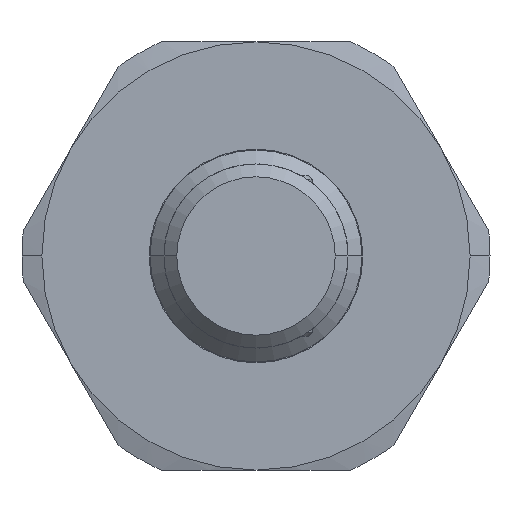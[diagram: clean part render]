
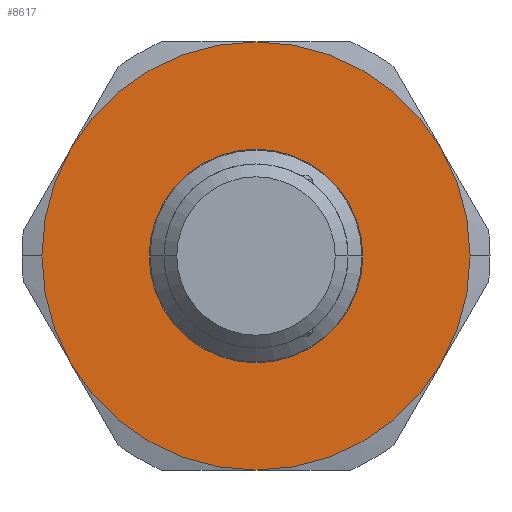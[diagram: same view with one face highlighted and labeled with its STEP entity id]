
A CAD part, left-side view. The second image highlights one B-rep face of the part: STEP entity #8617.
In plain terms, the highlighted planar face has unit normal (-1, 0, 0).
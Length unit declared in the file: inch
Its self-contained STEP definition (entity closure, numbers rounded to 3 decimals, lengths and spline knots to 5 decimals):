
#2835=CARTESIAN_POINT('',(-0.219,-0.5,0.));
#2836=VERTEX_POINT('',#2835);
#2843=CARTESIAN_POINT('',(-0.219,-0.43301,-0.25));
#2844=VERTEX_POINT('',#2843);
#2845=CARTESIAN_POINT('',(-0.219,0.0,0.0));
#2846=DIRECTION('',(-1.0,0.0,0.0));
#2847=DIRECTION('',(0.0,1.0,0.0));
#2848=AXIS2_PLACEMENT_3D('',#2845,#2846,#2847);
#2849=CIRCLE('',#2848,0.5);
#2850=EDGE_CURVE('',#2844,#2836,#2849,.T.);
#2882=CARTESIAN_POINT('',(-0.219,0.5,0.));
#2883=VERTEX_POINT('',#2882);
#2891=CARTESIAN_POINT('',(-0.219,0.43301,-0.25));
#2892=VERTEX_POINT('',#2891);
#2906=CARTESIAN_POINT('',(-0.219,0.0,0.0));
#2907=DIRECTION('',(-1.0,0.0,0.0));
#2908=DIRECTION('',(0.0,1.0,0.0));
#2909=AXIS2_PLACEMENT_3D('',#2906,#2907,#2908);
#2910=CIRCLE('',#2909,0.5);
#2911=EDGE_CURVE('',#2883,#2892,#2910,.T.);
#3325=CARTESIAN_POINT('',(-0.219,-0.2495,0.0));
#3326=VERTEX_POINT('',#3325);
#3335=CARTESIAN_POINT('',(-0.219,0.2495,0.));
#3336=VERTEX_POINT('',#3335);
#3337=CARTESIAN_POINT('',(-0.219,0.,0.0));
#3338=DIRECTION('',(1.0,0.0,0.0));
#3339=DIRECTION('',(0.0,-1.0,0.0));
#3340=AXIS2_PLACEMENT_3D('',#3337,#3338,#3339);
#3341=CIRCLE('',#3340,0.2495);
#3342=EDGE_CURVE('',#3336,#3326,#3341,.T.);
#8268=CARTESIAN_POINT('',(-0.219,0.,0.0));
#8269=DIRECTION('',(1.0,0.0,0.0));
#8270=DIRECTION('',(0.0,-1.0,0.0));
#8271=AXIS2_PLACEMENT_3D('',#8268,#8269,#8270);
#8272=CIRCLE('',#8271,0.2495);
#8273=EDGE_CURVE('',#3326,#3336,#8272,.T.);
#8554=CARTESIAN_POINT('',(-0.219,0.0,0.0));
#8555=DIRECTION('',(1.0,0.0,0.0));
#8556=DIRECTION('',(0.0,1.0,0.0));
#8557=AXIS2_PLACEMENT_3D('',#8554,#8555,#8556);
#8558=PLANE('',#8557);
#8559=CARTESIAN_POINT('',(-0.219,0.0,-0.5));
#8560=VERTEX_POINT('',#8559);
#8561=CARTESIAN_POINT('',(-0.219,0.0,0.0));
#8562=DIRECTION('',(-1.0,0.0,0.0));
#8563=DIRECTION('',(0.0,1.0,0.0));
#8564=AXIS2_PLACEMENT_3D('',#8561,#8562,#8563);
#8565=CIRCLE('',#8564,0.5);
#8566=EDGE_CURVE('',#2892,#8560,#8565,.T.);
#8567=ORIENTED_EDGE('',*,*,#8566,.T.);
#8568=CARTESIAN_POINT('',(-0.219,0.0,0.0));
#8569=DIRECTION('',(-1.0,0.0,0.0));
#8570=DIRECTION('',(0.0,1.0,0.0));
#8571=AXIS2_PLACEMENT_3D('',#8568,#8569,#8570);
#8572=CIRCLE('',#8571,0.5);
#8573=EDGE_CURVE('',#8560,#2844,#8572,.T.);
#8574=ORIENTED_EDGE('',*,*,#8573,.T.);
#8575=ORIENTED_EDGE('',*,*,#2850,.T.);
#8576=CARTESIAN_POINT('',(-0.219,-0.43301,0.25));
#8577=VERTEX_POINT('',#8576);
#8578=CARTESIAN_POINT('',(-0.219,0.0,0.0));
#8579=DIRECTION('',(-1.0,0.0,0.0));
#8580=DIRECTION('',(0.0,1.0,0.0));
#8581=AXIS2_PLACEMENT_3D('',#8578,#8579,#8580);
#8582=CIRCLE('',#8581,0.5);
#8583=EDGE_CURVE('',#2836,#8577,#8582,.T.);
#8584=ORIENTED_EDGE('',*,*,#8583,.T.);
#8585=CARTESIAN_POINT('',(-0.219,0.0,0.5));
#8586=VERTEX_POINT('',#8585);
#8587=CARTESIAN_POINT('',(-0.219,0.0,0.0));
#8588=DIRECTION('',(-1.0,0.0,0.0));
#8589=DIRECTION('',(0.0,1.0,0.0));
#8590=AXIS2_PLACEMENT_3D('',#8587,#8588,#8589);
#8591=CIRCLE('',#8590,0.5);
#8592=EDGE_CURVE('',#8577,#8586,#8591,.T.);
#8593=ORIENTED_EDGE('',*,*,#8592,.T.);
#8594=CARTESIAN_POINT('',(-0.219,0.43301,0.25));
#8595=VERTEX_POINT('',#8594);
#8596=CARTESIAN_POINT('',(-0.219,0.0,0.0));
#8597=DIRECTION('',(-1.0,0.0,0.0));
#8598=DIRECTION('',(0.0,1.0,0.0));
#8599=AXIS2_PLACEMENT_3D('',#8596,#8597,#8598);
#8600=CIRCLE('',#8599,0.5);
#8601=EDGE_CURVE('',#8586,#8595,#8600,.T.);
#8602=ORIENTED_EDGE('',*,*,#8601,.T.);
#8603=CARTESIAN_POINT('',(-0.219,0.0,0.0));
#8604=DIRECTION('',(-1.0,0.0,0.0));
#8605=DIRECTION('',(0.0,1.0,0.0));
#8606=AXIS2_PLACEMENT_3D('',#8603,#8604,#8605);
#8607=CIRCLE('',#8606,0.5);
#8608=EDGE_CURVE('',#8595,#2883,#8607,.T.);
#8609=ORIENTED_EDGE('',*,*,#8608,.T.);
#8610=ORIENTED_EDGE('',*,*,#2911,.T.);
#8611=EDGE_LOOP('',(#8567,#8574,#8575,#8584,#8593,#8602,#8609,#8610));
#8612=FACE_OUTER_BOUND('',#8611,.T.);
#8613=ORIENTED_EDGE('',*,*,#8273,.T.);
#8614=ORIENTED_EDGE('',*,*,#3342,.T.);
#8615=EDGE_LOOP('',(#8613,#8614));
#8616=FACE_BOUND('',#8615,.T.);
#8617=ADVANCED_FACE('',(#8612,#8616),#8558,.F.);
